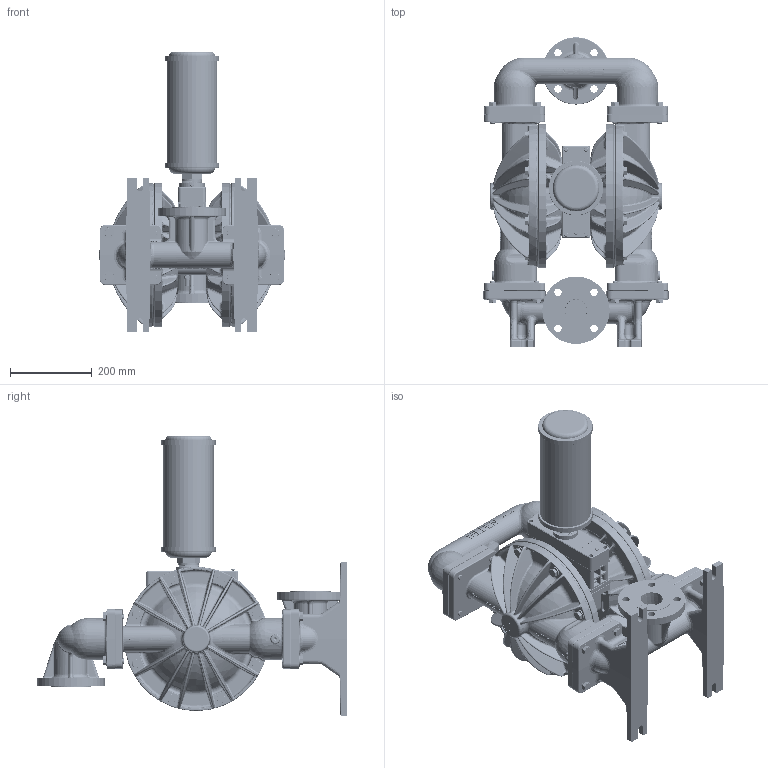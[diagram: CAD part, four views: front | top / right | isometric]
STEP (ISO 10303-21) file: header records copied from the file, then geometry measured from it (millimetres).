
FILE_DESCRIPTION (( 'STEP AP203' ), '1' );
FILE_NAME ('PS830_ADV_ALUMINUM_DIN 1.STEP', '2022-07-04T12:45:17', ( '' ), ( '' ), 'SwSTEP 2.0', 'SolidWorks 2019', '' );
FILE_SCHEMA (( 'CONFIG_CONTROL_DESIGN' ));
Length unit declared in the file: inch
Products named in the file (1): PS830_ADV_ALUMINUM_DIN 1
Bounding box: 453.45 x 757.81 x 686.69 mm (x, y, z)
Volume: 33532702.7 mm3; surface area: 1933195.6 mm2
Topology: 1 solids, 1 shells, 9125 faces, 23210 edges, 14401 vertices
Faces by surface type: plane 4458, bspline 2077, cylinder 1239, cone 560, torus 537, sphere 254
Entity records: 736545 total; most frequent: CARTESIAN_POINT 534089, ORIENTED_EDGE 46372, DIRECTION 36132, EDGE_CURVE 23186, VERTEX_POINT 14397, AXIS2_PLACEMENT_3D 12513, VECTOR 11106, LINE 11106
